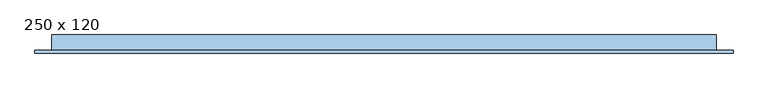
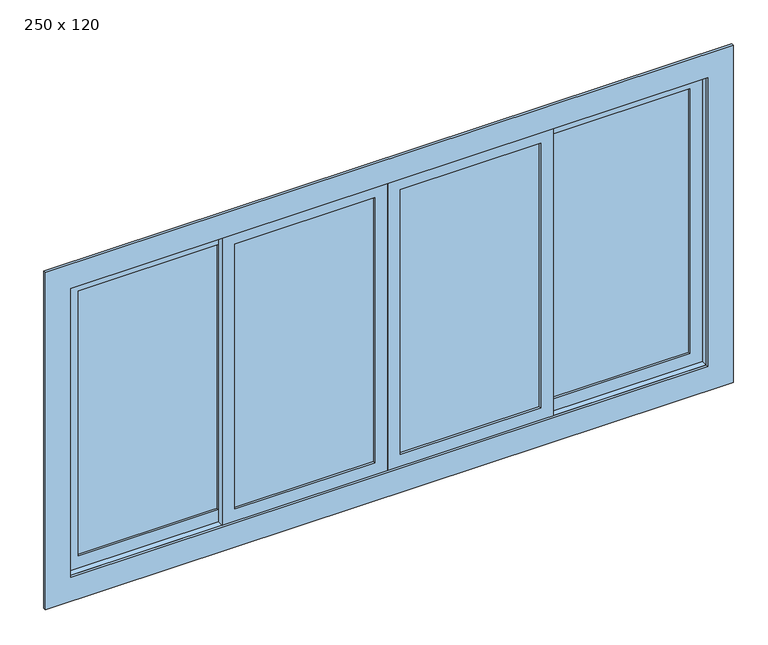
"""IFC4 building model written with IfcOpenShell, lengths in millimetres: window geometry, JANELA COM ESQUADRIA DE CORRER - 4 FOLHAS : 250 x 120."""

from ifc_helpers import new_model, si_unit, frame, origin, place, context, project, spatial, polyline, outline, extrude, source, transform, mapped, element, save


def window_250_x_120_b225a731(model_context):
    return source(origin(), model_context, "Body", "SweptSolid", [
        extrude(outline(polyline([(1329.4035509, -35.3758395), (1329.4035509, -41.3758395), (779.4035509, -41.3758395), (779.4035509, -35.3758395), (1329.4035509, -35.3758395)])), frame((0.0, 0.0, 1050.0), z_axis=(0.0, 0.0, 1.0), x_axis=(1.0, 0.0, 0.0)), (0.0, 0.0, 1.0), 1100.0),
        extrude(outline(polyline([(2200.0, 1379.4035509), (2200.0, 729.4035509), (1000.0, 729.4035509), (1000.0, 1379.4035509), (2200.0, 1379.4035509)]), holes=[polyline([(2150.0, 1329.4035509), (1050.0, 1329.4035509), (1050.0, 779.4035509), (2150.0, 779.4035509), (2150.0, 1329.4035509)])]), frame((0.0, -50.8758395, 0.0), z_axis=(0.0, 1.0, 0.0), x_axis=(0.0, 0.0, 1.0)), (0.0, 0.0, 1.0), 25.0),
        extrude(outline(polyline([(179.4035509, -60.3758395), (729.4035509, -60.3758395), (729.4035509, -66.3758395), (179.4035509, -66.3758395), (179.4035509, -60.3758395)])), frame((0.0, 0.0, 1050.0), z_axis=(0.0, 0.0, 1.0), x_axis=(1.0, 0.0, 0.0)), (0.0, 0.0, 1.0), 1100.0),
        extrude(outline(polyline([(2200.0, 129.4035509), (1000.0, 129.4035509), (1000.0, 779.4035509), (2200.0, 779.4035509), (2200.0, 129.4035509)]), holes=[polyline([(2150.0, 179.4035509), (2150.0, 729.4035509), (1050.0, 729.4035509), (1050.0, 179.4035509), (2150.0, 179.4035509)])]), frame((0.0, -75.8758395, 0.0), z_axis=(0.0, 1.0, 0.0), x_axis=(0.0, 0.0, 1.0)), (0.0, 0.0, 1.0), 25.0),
        extrude(outline(polyline([(-1070.5964491, -35.3758395), (-520.5964491, -35.3758395), (-520.5964491, -41.3758395), (-1070.5964491, -41.3758395), (-1070.5964491, -35.3758395)])), frame((0.0, 0.0, 1050.0), z_axis=(0.0, 0.0, 1.0), x_axis=(1.0, 0.0, 0.0)), (0.0, 0.0, 1.0), 1100.0),
        extrude(outline(polyline([(2200.0, -1120.5964491), (1000.0, -1120.5964491), (1000.0, -470.5964491), (2200.0, -470.5964491), (2200.0, -1120.5964491)]), holes=[polyline([(2150.0, -1070.5964491), (2150.0, -520.5964491), (1050.0, -520.5964491), (1050.0, -1070.5964491), (2150.0, -1070.5964491)])]), frame((0.0, -50.8758395, 0.0), z_axis=(0.0, 1.0, 0.0), x_axis=(0.0, 0.0, 1.0)), (0.0, 0.0, 1.0), 25.0),
        extrude(outline(polyline([(79.4035509, -60.3758395), (79.4035509, -66.3758395), (-470.5964491, -66.3758395), (-470.5964491, -60.3758395), (79.4035509, -60.3758395)])), frame((0.0, 0.0, 1050.0), z_axis=(0.0, 0.0, 1.0), x_axis=(1.0, 0.0, 0.0)), (0.0, 0.0, 1.0), 1100.0),
        extrude(outline(polyline([(2200.0, 129.4035509), (2200.0, -520.5964491), (1000.0, -520.5964491), (1000.0, 129.4035509), (2200.0, 129.4035509)]), holes=[polyline([(2150.0, 79.4035509), (1050.0, 79.4035509), (1050.0, -470.5964491), (2150.0, -470.5964491), (2150.0, 79.4035509)])]), frame((0.0, -75.8758395, 0.0), z_axis=(0.0, 1.0, 0.0), x_axis=(0.0, 0.0, 1.0)), (0.0, 0.0, 1.0), 25.0),
        extrude(outline(polyline([(900.0, -1220.5964491), (900.0, 1479.4035509), (2300.0, 1479.4035509), (2300.0, -1220.5964491), (900.0, -1220.5964491)]), holes=[polyline([(2200.0, -1120.5964491), (2200.0, 1379.4035509), (1000.0, 1379.4035509), (1000.0, -1120.5964491), (2200.0, -1120.5964491)])]), frame((0.0, -85.8758395, 0.0), z_axis=(0.0, 1.0, 0.0), x_axis=(0.0, 0.0, 1.0)), (0.0, 0.0, 1.0), 10.0),
        extrude(outline(polyline([(-1155.5964491, -15.8758395), (-1120.5964491, -15.8758395), (-1120.5964491, -75.8758395), (-1155.5964491, -75.8758395), (-1155.5964491, -15.8758395)])), frame((0.0, 0.0, 1000.0), z_axis=(0.0, 0.0, 1.0), x_axis=(1.0, 0.0, 0.0)), (0.0, 0.0, 1.0), 1200.0),
        extrude(outline(polyline([(1379.4035509, -15.8758395), (1414.4035509, -15.8758395), (1414.4035509, -75.8758395), (1379.4035509, -75.8758395), (1379.4035509, -15.8758395)])), frame((0.0, 0.0, 1000.0), z_axis=(0.0, 0.0, 1.0), x_axis=(1.0, 0.0, 0.0)), (0.0, 0.0, 1.0), 1200.0),
        extrude(outline(polyline([(-1155.5964491, -15.8758395), (1414.4035509, -15.8758395), (1414.4035509, -75.8758395), (-1155.5964491, -75.8758395), (-1155.5964491, -15.8758395)])), frame((0.0, 0.0, 965.0), z_axis=(0.0, 0.0, 1.0), x_axis=(1.0, 0.0, 0.0)), (0.0, 0.0, 1.0), 35.0),
        extrude(outline(polyline([(-1155.5964491, -15.8758395), (1414.4035509, -15.8758395), (1414.4035509, -75.8758395), (-1155.5964491, -75.8758395), (-1155.5964491, -15.8758395)])), frame((0.0, 0.0, 2200.0), z_axis=(0.0, 0.0, 1.0), x_axis=(1.0, 0.0, 0.0)), (0.0, 0.0, 1.0), 35.0),
    ])


if __name__ == "__main__":
    model = new_model("IFC4")
    model_context = context("Model", 3, world=origin())
    ifc_project = project(units=[si_unit("LENGTHUNIT", "METRE", prefix="MILLI")], contexts=[model_context])
    site = spatial("IfcSite", under=ifc_project)
    building = spatial("IfcBuilding", under=site)
    placement = place(None, origin())
    window_250_x_120_shape = window_250_x_120_b225a731(model_context)
    element("IfcWindow", 1, ObjectType="JANELA COM ESQUADRIA DE CORRER - 4 FOLHAS : 250 x 120", at=placement, inside=building, context=model_context, shape_type="MappedRepresentation", body=[
        mapped(window_250_x_120_shape, transform((0.0, 0.0, 0.0), x_axis=(1.0, 0.0, 0.0), y_axis=(0.0, 1.0, 0.0), z_axis=(0.0, 0.0, 1.0))),
    ])
    save(model, "model.ifc")
